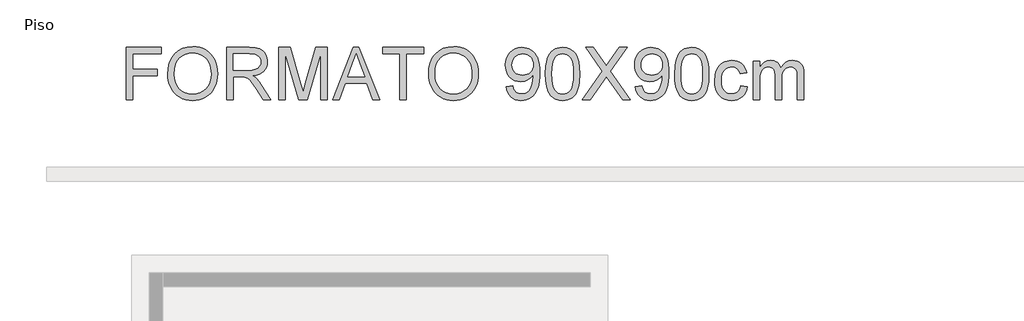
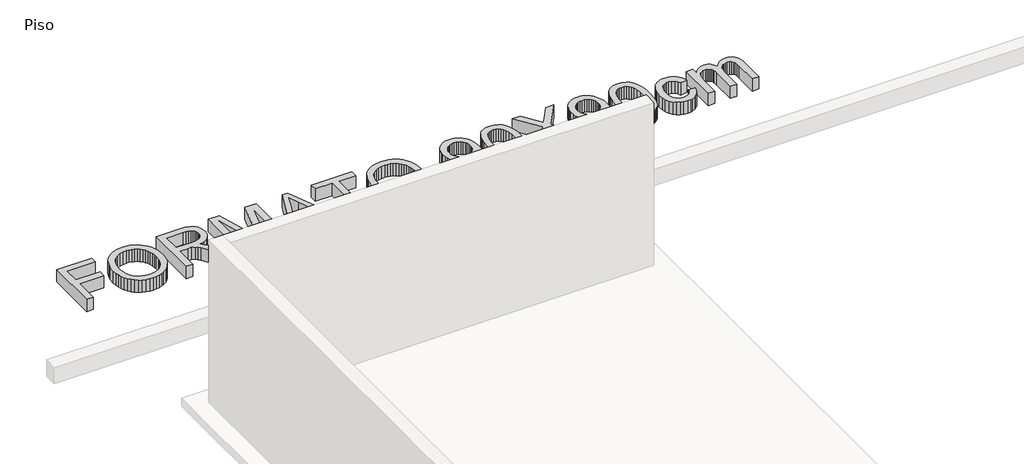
# One storey, part 2 of 2: 1 proxy.
"""IFC4 building model written with IfcOpenShell, lengths in millimetres."""

import ifcopenshell
import ifcopenshell.guid

model = None  # the IFC model being written
_history = None  # IfcOwnerHistory: only IFC2X3 demands one
_inside = {}  # id of a spatial element -> (the spatial element, [elements in it])
_under = {}  # id of a project, library or spatial element -> (it, [spatial elements below it])
_declared = {}  # id of a project -> (the project, [libraries it declares])
_typed = {}  # id of a type object -> (the type object, [elements of that type])
_made_of = {}  # id of a material, layer set ... -> (it, [elements and type objects made of it])


def new_model(schema):
    """Start an empty IFC model of exactly this schema.

    Asked for "IFC4X3", IfcOpenShell would pick the latest addendum, in which some entities
    have other attributes; the version numbers below select the first issue.
    IFC2X3 requires an IfcOwnerHistory on every rooted entity: one is made here for all.
    """
    global model, _history
    if schema == "IFC4X3":
        model = ifcopenshell.file(schema_version=(4, 3, 0, 0))
    else:
        model = ifcopenshell.file(schema=schema)
    _inside.clear()
    _under.clear()
    _declared.clear()
    _typed.clear()
    _made_of.clear()
    _history = None
    if model.schema == "IFC2X3":
        org = make("IfcOrganization", Name="unknown")
        user = make(
            "IfcPersonAndOrganization",
            ThePerson=make("IfcPerson", FamilyName="unknown"),
            TheOrganization=org,
        )
        app = make(
            "IfcApplication",
            ApplicationDeveloper=org,
            Version="unknown",
            ApplicationFullName="unknown",
            ApplicationIdentifier="unknown",
        )
        _history = make(
            "IfcOwnerHistory",
            OwningUser=user,
            OwningApplication=app,
            ChangeAction="ADDED",
            CreationDate=0,
        )
    return model


def make(cls, **values):
    """One entity of the class cls with the attributes given. An attribute that is None is left unset."""
    return model.create_entity(
        cls, **{name: value for name, value in values.items() if value is not None}
    )


def rooted(cls, **values):
    """An entity with a GlobalId (a new one), such as an element, a storey or a relation."""
    return make(cls, GlobalId=ifcopenshell.guid.new(), OwnerHistory=_history, **values)


def si_unit(unit_type, name, prefix=None):
    """IfcSIUnit, for example si_unit("LENGTHUNIT", "METRE", prefix="MILLI")."""
    return make("IfcSIUnit", UnitType=unit_type, Prefix=prefix, Name=name)


def assignment(units):
    """IfcUnitAssignment: the units of a project."""
    return None if units is None else make("IfcUnitAssignment", Units=units)


def point(xyz):
    """IfcCartesianPoint."""
    return None if xyz is None else make("IfcCartesianPoint", Coordinates=xyz)


def direction(xyz):
    """IfcDirection."""
    return None if xyz is None else make("IfcDirection", DirectionRatios=xyz)


def frame(location, z_axis=None, x_axis=None):
    """IfcAxis2Placement3D, a coordinate frame: its origin and axes. An axis left out is left unset."""
    return make(
        "IfcAxis2Placement3D",
        Location=point(location),
        Axis=direction(z_axis),
        RefDirection=direction(x_axis),
    )


def origin():
    """The frame at (0, 0, 0) with its axes left unset."""
    return frame((0.0, 0.0, 0.0))


def origin_with_axes():
    """The frame at (0, 0, 0) with the z axis (0, 0, 1) and the x axis (1, 0, 0) written out."""
    return frame((0.0, 0.0, 0.0), z_axis=(0.0, 0.0, 1.0), x_axis=(1.0, 0.0, 0.0))


def place(relative_to, where):
    """IfcLocalPlacement: puts the frame where relative to a parent placement (None: the world)."""
    return make(
        "IfcLocalPlacement", PlacementRelTo=relative_to, RelativePlacement=where
    )


def context(
    kind, dimensions, precision=None, world=None, true_north=None, identifier=None
):
    """IfcGeometricRepresentationContext, for example the 3D "Model" context."""
    return make(
        "IfcGeometricRepresentationContext",
        ContextIdentifier=identifier,
        ContextType=kind,
        CoordinateSpaceDimension=dimensions,
        Precision=precision,
        WorldCoordinateSystem=world,
        TrueNorth=true_north,
    )


def project(units=None, contexts=None):
    """IfcProject with its units and contexts."""
    return rooted(
        "IfcProject",
        Name="project",
        RepresentationContexts=contexts,
        UnitsInContext=assignment(units),
    )


def spatial(cls, under=None, at=None, **own):
    """A site, building, storey or space (cls), placed at a placement, below another one or the project."""
    s = rooted(cls, ObjectPlacement=at, **own)
    if under is not None:
        _under.setdefault(under.id(), (under, []))[1].append(s)
    return s


def polyline(points):
    """IfcPolyline through the points."""
    return make("IfcPolyline", Points=[point(p) for p in points])


def outline(outer, holes=None, kind="AREA"):
    """IfcArbitraryClosedProfileDef: a profile drawn as a closed curve; with holes, ...WithVoids."""
    if holes is None:
        return make("IfcArbitraryClosedProfileDef", ProfileType=kind, OuterCurve=outer)
    return make(
        "IfcArbitraryProfileDefWithVoids",
        ProfileType=kind,
        OuterCurve=outer,
        InnerCurves=holes,
    )


def extrude(swept, where, along, depth):
    """IfcExtrudedAreaSolid: the profile swept, set in the frame where, extruded along a direction by depth."""
    return make(
        "IfcExtrudedAreaSolid",
        SweptArea=swept,
        Position=where,
        ExtrudedDirection=direction(along),
        Depth=depth,
    )


def shape(context_of_items, identifier, shape_type, items):
    """IfcShapeRepresentation: the items that make up one representation, for example the "Body"."""
    return make(
        "IfcShapeRepresentation",
        ContextOfItems=context_of_items,
        RepresentationIdentifier=identifier,
        RepresentationType=shape_type,
        Items=items,
    )


def made_of(thing, what):
    """Note that an element or type object is made of a material, layer set ...; save() writes the relation."""
    if what is not None:
        _made_of.setdefault(what.id(), (what, []))[1].append(thing)
    return thing


def element(
    cls,
    number,
    at=None,
    inside=None,
    cuts=None,
    type_object=None,
    material=None,
    context=None,
    identifier="Body",
    shape_type=None,
    held_by="IfcProductDefinitionShape",
    body=None,
    shapes=None,
    **own,
):
    """One element of the class cls, such as IfcWall. Its Tag is "e" and its number.

    at: its placement. inside: the storey or other place that contains it. cuts: it is an
    opening in that element (IfcRelVoidsElement). A single representation is given by context,
    identifier, shape_type and body (its items); several are given by shapes. held_by: the class
    of the entity that holds the representations. save() writes the other relations.
    """
    e = rooted(cls, Tag="e%d" % number, ObjectPlacement=at, **own)
    if body is not None:
        shapes = [shape(context, identifier, shape_type, body)]
    if shapes is not None:
        e.Representation = make(held_by, Representations=shapes)
    if inside is not None:
        _inside.setdefault(inside.id(), (inside, []))[1].append(e)
    if cuts is not None:
        rooted(
            "IfcRelVoidsElement", RelatingBuildingElement=cuts, RelatedOpeningElement=e
        )
    if type_object is not None:
        _typed.setdefault(type_object.id(), (type_object, []))[1].append(e)
    return made_of(e, material)


def aggregate(whole, parts):
    """IfcRelAggregates: a whole, such as a stair, and the parts it consists of."""
    return rooted("IfcRelAggregates", RelatingObject=whole, RelatedObjects=parts)


def save(model, path):
    """Write the relations noted so far, then the file.

    IfcRelAggregates (storeys below a building ...), IfcRelContainedInSpatialStructure (elements
    in a storey), IfcRelDefinesByType, IfcRelAssociatesMaterial and IfcRelDeclares: one each for
    every whole, place, type object, material and project.
    """
    for whole, parts in _under.values():
        aggregate(whole, parts)
    for where, things in _inside.values():
        rooted(
            "IfcRelContainedInSpatialStructure",
            RelatedElements=things,
            RelatingStructure=where,
        )
    for kind, things in _typed.values():
        rooted("IfcRelDefinesByType", RelatedObjects=things, RelatingType=kind)
    for what, things in _made_of.values():
        rooted("IfcRelAssociatesMaterial", RelatedObjects=things, RelatingMaterial=what)
    for by, libraries in _declared.values():
        rooted("IfcRelDeclares", RelatingContext=by, RelatedDefinitions=libraries)
    model.write(path)


model = new_model("IFC4")

# Units and contexts
model_context = context("Model", 3, world=origin())
ifc_project = project(units=[si_unit("LENGTHUNIT", "METRE", prefix="MILLI")], contexts=[model_context])

# Site, building, storey
site = spatial("IfcSite", under=ifc_project)
building = spatial("IfcBuilding", under=site)
storey = spatial("IfcBuildingStorey", under=building, Name="Piso", Elevation=0.0)

# Proxy
placement = place(None, origin())
element("IfcBuildingElementProxy", 1, Name="600mm Arial", ObjectType="600mm Arial", at=placement, inside=storey, context=model_context, shape_type="SweptSolid", body=[
    extrude(outline(polyline([(92602.0859381, 2702.6380465), (92602.0859381, 3305.3759074), (93007.0504384, 3305.3759074), (93007.0504384, 3230.0336748), (92677.4281707, 3230.0336748), (92677.4281707, 3051.0958724), (92959.961543, 3051.0958724), (92959.961543, 2975.7536397), (92677.4281707, 2975.7536397), (92677.4281707, 2702.6380465), (92602.0859381, 2702.6380465)])), origin_with_axes(), (0.0, 0.0, 1.0), 150.0),
    extrude(outline(polyline([(93082.392671, 2996.0607259), (93087.4142602, 3066.7584483), (93102.4790279, 3129.3443727), (93127.5869741, 3183.8184992), (93143.9071391, 3208.0136381), (93162.7380987, 3230.1808276), (93205.8262774, 3267.1989534), (93254.7453857, 3293.6404718), (93309.4954237, 3309.5053828), (93370.0763912, 3314.7936865), (93410.6261841, 3312.310483), (93449.134232, 3304.8608726), (93485.6005348, 3292.4448553), (93520.0250925, 3275.062431), (93551.4422148, 3253.2378317), (93578.8862117, 3227.495289), (93602.357083, 3197.8348032), (93621.8548287, 3164.2563741), (93637.1771138, 3127.5233569), (93648.1216032, 3088.3991067), (93654.6882968, 3046.8836235), (93656.8771947, 3002.9769074), (93654.5733337, 2958.4907771), (93647.6617507, 2916.4142739), (93636.1424457, 2876.7473978), (93620.0154187, 2839.4901487), (93599.6623474, 2805.6266111), (93575.4649091, 2776.1408692), (93547.423104, 2751.032923), (93515.5369321, 2730.3027726), (93481.0617906, 2714.0791766), (93445.2530769, 2702.4908937), (93408.110791, 2695.537924), (93369.6349328, 2693.2202674), (93328.3769671, 2695.7816458), (93289.3630815, 2703.465781), (93252.5932761, 2716.272673), (93218.0675508, 2734.2023217), (93186.6872166, 2756.56035), (93159.3535844, 2782.6523805), (93136.0666541, 2812.4784132), (93116.8264257, 2846.0384482), (93101.761658, 2881.9851177), (93091.0011097, 2918.9710538), (93084.5447807, 2956.9962565), (93082.392671, 2996.0607259)]), holes=[polyline([(93157.7349036, 2995.3249619), (93161.5010955, 2945.375784), (93172.7996713, 2901.0368065), (93191.6306309, 2862.3080295), (93217.9939744, 2829.1894529), (93250.0410947, 2802.665161), (93285.9233848, 2783.7192383), (93325.6408447, 2772.3516846), (93369.1934744, 2768.5625001), (93413.4910652, 2772.3884728), (93453.6775746, 2783.8663911), (93489.7530028, 2802.9962548), (93521.7173496, 2829.7780641), (93547.8875551, 2863.5956165), (93566.5805589, 2903.8327097), (93577.7963613, 2950.4893437), (93581.5349621, 3003.5655186), (93579.9346754, 3038.0452586), (93575.1338153, 3070.2625243), (93567.1323819, 3100.2173158), (93555.9303752, 3127.9096329), (93541.6519553, 3152.9761924), (93524.4212823, 3175.0537106), (93504.2383563, 3194.1421877), (93481.1031774, 3210.2416235), (93455.7331153, 3223.0209243), (93428.84554, 3232.1489963), (93400.4404514, 3237.6258395), (93370.5178496, 3239.4514539), (93328.4781346, 3235.9335823), (93289.4734461, 3225.3799676), (93253.503784, 3207.7906097), (93220.5691484, 3183.1655086), (93193.0791663, 3150.318245), (93173.4434648, 3108.0623993), (93161.6620439, 3056.3979716), (93157.7349036, 2995.3249619)])]), origin_with_axes(), (0.0, 0.0, 1.0), 150.0),
    extrude(outline(polyline([(93760.4727645, 2702.6380465), (93760.4727645, 3305.3759074), (94020.1974531, 3305.3759074), (94090.0030617, 3301.3108114), (94140.7891711, 3289.1155232), (94160.3880844, 3279.4218327), (94177.9084644, 3266.6011451), (94193.3503112, 3250.6534606), (94206.7136247, 3231.5787792), (94217.4971656, 3210.4025718), (94225.1996949, 3188.1503097), (94229.8212125, 3164.8219926), (94231.3617183, 3140.4176208), (94228.809537, 3109.4603509), (94221.152993, 3081.0414668), (94208.3920863, 3055.1609684), (94190.5268169, 3031.8188558), (94167.3272585, 3011.76009), (94138.563485, 2995.7296321), (94104.2354964, 2983.727482), (94064.3432925, 2975.7536397), (94089.1753272, 2959.5300438), (94107.1647568, 2943.527177), (94138.0300562, 2906.9229184), (94168.233168, 2865.9776524), (94268.738529, 2702.6380465), (94181.1826142, 2702.6380465), (94102.7501728, 2827.5707721), (94046.0963456, 2910.2706446), (94025.0351013, 2934.3853094), (94006.2915137, 2949.3397125), (93970.4598074, 2963.6871103), (93926.7554263, 2966.3358607), (93835.8149971, 2966.3358607), (93835.8149971, 2702.6380465), (93760.4727645, 2702.6380465)]), holes=[polyline([(93835.8149971, 3041.6780933), (94004.4521037, 3041.6780933), (94052.8837684, 3044.3452377), (94090.4629142, 3052.3466711), (94118.7530396, 3066.2158224), (94139.3176431, 3086.4861203), (94151.8440251, 3111.0054553), (94156.0194857, 3137.6217176), (94154.0283244, 3156.8895371), (94148.0548405, 3174.3731289), (94138.099034, 3190.0724931), (94124.1609049, 3203.9876296), (94105.9185565, 3215.3827744), (94083.050092, 3223.5221635), (94055.5555114, 3228.405797), (94023.4348147, 3230.0336748), (93835.8149971, 3230.0336748), (93835.8149971, 3041.6780933)])]), origin_with_axes(), (0.0, 0.0, 1.0), 150.0),
    extrude(outline(polyline([(94363.2106254, 2702.6380465), (94363.2106254, 3305.3759074), (94492.8522405, 3305.3759074), (94616.1662853, 2880.5457794), (94641.0351082, 2791.8126422), (94667.9640702, 2887.9034193), (94789.2179758, 3305.3759074), (94918.8595909, 3305.3759074), (94918.8595909, 2702.6380465), (94843.5173583, 2702.6380465), (94843.5173583, 3230.0336748), (94692.0971291, 2702.6380465), (94589.9730872, 2702.6380465), (94438.552858, 3230.0336748), (94438.552858, 2702.6380465), (94363.2106254, 2702.6380465)])), origin_with_axes(), (0.0, 0.0, 1.0), 150.0),
    extrude(outline(polyline([(94980.5166133, 2702.6380465), (95221.1114382, 3305.3759074), (95285.2700581, 3305.3759074), (95525.864883, 2702.6380465), (95446.2552192, 2702.6380465), (95377.2405569, 2890.9936281), (95128.9937866, 2890.9936281), (95060.1262771, 2702.6380465), (94980.5166133, 2702.6380465)]), holes=[polyline([(95156.6585126, 2966.3358607), (95349.7229837, 2966.3358607), (95295.4236012, 3114.5187283), (95253.1907481, 3230.0336748), (95215.6667846, 3127.4681746), (95156.6585126, 2966.3358607)])]), origin_with_axes(), (0.0, 0.0, 1.0), 150.0),
    extrude(outline(polyline([(95757.0419287, 2702.6380465), (95757.0419287, 3230.0336748), (95559.2685681, 3230.0336748), (95559.2685681, 3305.3759074), (96030.1575219, 3305.3759074), (96030.1575219, 3230.0336748), (95832.3841613, 3230.0336748), (95832.3841613, 2702.6380465), (95757.0419287, 2702.6380465)])), origin_with_axes(), (0.0, 0.0, 1.0), 150.0),
    extrude(outline(polyline([(96086.6641964, 2996.0607259), (96091.6857856, 3066.7584483), (96106.7505533, 3129.3443727), (96131.8584995, 3183.8184992), (96148.1786645, 3208.0136381), (96167.0096242, 3230.1808276), (96210.0978028, 3267.1989534), (96259.0169111, 3293.6404718), (96313.7669491, 3309.5053828), (96374.3479166, 3314.7936865), (96414.8977096, 3312.310483), (96453.4057574, 3304.8608726), (96489.8720602, 3292.4448553), (96524.2966179, 3275.062431), (96555.7137403, 3253.2378317), (96583.1577371, 3227.495289), (96606.6286084, 3197.8348032), (96626.1263541, 3164.2563741), (96641.4486392, 3127.5233569), (96652.3931286, 3088.3991067), (96658.9598222, 3046.8836235), (96661.1487201, 3002.9769074), (96658.8448591, 2958.4907771), (96651.9332761, 2916.4142739), (96640.4139711, 2876.7473978), (96624.2869442, 2839.4901487), (96603.9338728, 2805.6266111), (96579.7364345, 2776.1408692), (96551.6946295, 2751.032923), (96519.8084575, 2730.3027726), (96485.3333161, 2714.0791766), (96449.5246024, 2702.4908937), (96412.3823164, 2695.537924), (96373.9064582, 2693.2202674), (96332.6484925, 2695.7816458), (96293.6346069, 2703.465781), (96256.8648015, 2716.272673), (96222.3390762, 2734.2023217), (96190.958742, 2756.56035), (96163.6251098, 2782.6523805), (96140.3381795, 2812.4784132), (96121.0979512, 2846.0384482), (96106.0331835, 2881.9851177), (96095.2726351, 2918.9710538), (96088.8163061, 2956.9962565), (96086.6641964, 2996.0607259)]), holes=[polyline([(96162.006429, 2995.3249619), (96165.7726209, 2945.375784), (96177.0711967, 2901.0368065), (96195.9021564, 2862.3080295), (96222.2654998, 2829.1894529), (96254.3126201, 2802.665161), (96290.1949102, 2783.7192383), (96329.9123701, 2772.3516846), (96373.4649998, 2768.5625001), (96417.7625906, 2772.3884728), (96457.9491, 2783.8663911), (96494.0245282, 2802.9962548), (96525.988875, 2829.7780641), (96552.1590805, 2863.5956165), (96570.8520844, 2903.8327097), (96582.0678867, 2950.4893437), (96585.8064875, 3003.5655186), (96584.2062008, 3038.0452586), (96579.4053407, 3070.2625243), (96571.4039074, 3100.2173158), (96560.2019006, 3127.9096329), (96545.9234807, 3152.9761924), (96528.6928077, 3175.0537106), (96508.5098818, 3194.1421877), (96485.3747028, 3210.2416235), (96460.0046407, 3223.0209243), (96433.1170654, 3232.1489963), (96404.7119768, 3237.6258395), (96374.789375, 3239.4514539), (96332.74966, 3235.9335823), (96293.7449715, 3225.3799676), (96257.7753094, 3207.7906097), (96224.8406738, 3183.1655086), (96197.3506917, 3150.318245), (96177.7149902, 3108.0623993), (96165.9335693, 3056.3979716), (96162.006429, 2995.3249619)])]), origin_with_axes(), (0.0, 0.0, 1.0), 150.0),
    extrude(outline(polyline([(96981.3532087, 2853.3225117), (97056.6954413, 2862.7402908), (97069.5713111, 2819.9740089), (97079.0442725, 2803.7090262), (97090.5405848, 2790.856149), (97103.9314895, 2781.1026776), (97119.0882277, 2774.1359123), (97154.6992048, 2768.5625001), (97186.6497561, 2772.1493495), (97215.6940396, 2782.9098979), (97239.8270985, 2799.6669228), (97257.0439759, 2821.2432018), (97270.0853926, 2849.6069036), (97281.6920695, 2886.7261969), (97289.8590498, 2929.326932), (97292.5813766, 2974.134959), (97292.1399182, 2988.8502388), (97266.0386906, 2956.991658), (97231.8808474, 2931.7549531), (97192.1311978, 2915.3106279), (97149.2545513, 2909.8291862), (97113.4642317, 2913.1769124), (97080.5525887, 2923.2200908), (97050.5196223, 2939.9587216), (97023.3653325, 2963.3928047), (97000.86475, 2992.2991325), (96984.7929053, 3025.4544973), (96975.1497985, 3062.8588992), (96971.9354296, 3104.5123381), (96975.3061484, 3147.5545315), (96985.4183047, 3186.182141), (97002.2718986, 3220.3951665), (97025.8669301, 3250.1936081), (97054.5387331, 3274.3358641), (97086.6226416, 3291.5803326), (97122.1186556, 3301.9270137), (97161.0267751, 3305.3759074), (97189.7537604, 3303.4077387), (97217.2207499, 3297.5032327), (97243.4277435, 3287.6623894), (97268.3747413, 3273.8852086), (97291.2294103, 3256.4659962), (97311.1594174, 3235.6990575), (97328.1647626, 3211.5843928), (97342.2454459, 3184.1220018), (97353.2865043, 3151.7299921), (97361.1729746, 3112.8264711), (97365.9048568, 3067.4114388), (97367.4821508, 3015.4848952), (97365.9094553, 2960.950988), (97361.1913687, 2912.2756015), (97353.3278911, 2869.4587358), (97342.3190223, 2832.5003908), (97328.2061493, 2800.4992558), (97311.0306587, 2772.5540197), (97290.7925504, 2748.6646826), (97267.4918245, 2728.8312446), (97241.5975306, 2713.2514421), (97213.5787181, 2702.1230117), (97183.4353872, 2695.4459535), (97151.1675377, 2693.2202674), (97117.3315911, 2695.8460252), (97086.7514003, 2703.7232984), (97059.4269651, 2716.8520871), (97035.3582856, 2735.2323913), (97015.152367, 2758.3675703), (96999.4162146, 2785.7609833), (96988.1498285, 2817.4126305), (96981.3532087, 2853.3225117)]), holes=[polyline([(97292.1399182, 3106.2781716), (97290.1073702, 3133.2807101), (97284.0097261, 3157.3401926), (97273.846986, 3178.4566191), (97259.6191498, 3196.6299896), (97242.0251934, 3211.2441019), (97221.7640925, 3221.6827535), (97198.8358472, 3227.9459445), (97173.2404574, 3230.0336748), (97146.8265301, 3227.7849961), (97122.9142004, 3221.03896), (97101.5034683, 3209.7955666), (97082.5943338, 3194.0548157), (97067.14329, 3174.7364124), (97056.1068301, 3152.7600617), (97049.4849542, 3128.1257636), (97047.2776622, 3100.8335181), (97049.3653925, 3076.3555699), (97055.6285835, 3054.2780516), (97066.0672351, 3034.6009634), (97080.6813474, 3017.3243052), (97098.863915, 3003.2574174), (97120.0079327, 2993.2096404), (97144.1134004, 2987.1809742), (97171.1803182, 2985.1714188), (97196.4216216, 2987.1809742), (97219.3176773, 2993.2096404), (97239.8684852, 3003.2574174), (97258.0740454, 3017.3243052), (97272.9778648, 3034.9412542), (97283.62345, 3055.639215), (97290.0108012, 3079.4181875), (97292.1399182, 3106.2781716)])]), origin_with_axes(), (0.0, 0.0, 1.0), 150.0),
    extrude(outline(polyline([(97433.4066044, 2999.1509346), (97438.9432284, 3095.6279879), (97445.8640084, 3136.5410643), (97455.5531005, 3172.5705072), (97467.9691178, 3204.0106222), (97483.0706737, 3231.1557149), (97500.8577682, 3254.0057853), (97521.3304012, 3272.5608335), (97544.5575507, 3286.9174283), (97570.6081945, 3297.1721389), (97599.4823325, 3303.3249653), (97631.179965, 3305.3759074), (97677.6066727, 3300.5198651), (97719.1773382, 3285.9517381), (97753.9421867, 3262.2417435), (97779.9514438, 3229.9600984), (97799.5963424, 3189.3827143), (97815.2681153, 3140.7855028), (97825.532023, 3079.0732981), (97828.9533256, 2999.1509346), (97823.4718838, 2903.2257044), (97816.6200817, 2862.4505838), (97807.0275587, 2826.4671261), (97794.7081103, 2795.0132155), (97779.6755323, 2767.8267361), (97761.9298246, 2744.9076878), (97741.4709871, 2726.2560706), (97718.2162465, 2711.8029067), (97692.0828293, 2701.4792182), (97663.0707354, 2695.2850051), (97631.179965, 2693.2202674), (97589.6828759, 2696.8071169), (97552.8946764, 2707.5676653), (97520.8153664, 2725.5019125), (97493.444946, 2750.6098587), (97467.1781715, 2795.9972999), (97448.4161898, 2852.5499596), (97437.1590007, 2920.2678378), (97433.4066044, 2999.1509346)]), holes=[polyline([(97508.748837, 2999.2980874), (97510.9561289, 2933.8012967), (97517.5780048, 2880.7849027), (97528.6144647, 2840.2489053), (97544.0655085, 2812.1933047), (97562.7539139, 2793.1048277), (97583.5024584, 2779.4702012), (97606.3111421, 2771.2894254), (97631.179965, 2768.5625001), (97656.0487878, 2771.2986224), (97678.8574715, 2779.5069894), (97699.6060161, 2793.1876011), (97718.2944214, 2812.3404575), (97733.7454652, 2840.4420434), (97744.7819251, 2880.9688437), (97751.403801, 2933.9208584), (97753.611093, 2999.2980874), (97751.4773774, 3063.0612342), (97745.0762307, 3115.1441277), (97734.4076528, 3155.5467678), (97719.4716438, 3184.2691546), (97701.0959381, 3204.2911322), (97680.1082703, 3218.5925448), (97656.5086403, 3227.1733923), (97630.2970482, 3230.0336748), (97605.556984, 3227.5136831), (97583.1345764, 3219.9537081), (97563.0298254, 3207.3537498), (97545.2427309, 3189.7138081), (97529.2766523, 3158.4438385), (97517.8723104, 3116.2845619), (97511.0297053, 3063.2359782), (97508.748837, 2999.2980874)])]), origin_with_axes(), (0.0, 0.0, 1.0), 150.0),
    extrude(outline(polyline([(97857.2066628, 2702.6380465), (98089.5609309, 3031.0830918), (97894.8777791, 3305.3759074), (97985.2295971, 3305.3759074), (98094.8584317, 3151.0126222), (98121.0148415, 3111.9067662), (98131.793784, 3090.8271278), (98175.0567066, 3152.0426918), (98283.5083188, 3305.3759074), (98375.184512, 3305.3759074), (98180.5013602, 3030.200175), (98412.8556283, 2702.6380465), (98322.5038103, 2702.6380465), (98167.6990667, 2921.0127989), (98135.4726039, 2966.3358607), (98100.0087796, 2916.5982149), (97948.882856, 2702.6380465), (97857.2066628, 2702.6380465)])), origin_with_axes(), (0.0, 0.0, 1.0), 150.0),
    extrude(outline(polyline([(98469.3623028, 2853.3225117), (98544.7045354, 2862.7402908), (98557.5804052, 2819.9740089), (98567.0533666, 2803.7090262), (98578.5496789, 2790.856149), (98591.9405836, 2781.1026776), (98607.0973218, 2774.1359123), (98642.7082989, 2768.5625001), (98674.6588502, 2772.1493495), (98703.7031337, 2782.9098979), (98727.8361926, 2799.6669228), (98745.05307, 2821.2432018), (98758.0944867, 2849.6069036), (98769.7011636, 2886.7261969), (98777.8681439, 2929.326932), (98780.5904707, 2974.134959), (98780.1490123, 2988.8502388), (98754.0477847, 2956.991658), (98719.8899415, 2931.7549531), (98680.1402919, 2915.3106279), (98637.2636454, 2909.8291862), (98601.4733258, 2913.1769124), (98568.5616828, 2923.2200908), (98538.5287164, 2939.9587216), (98511.3744266, 2963.3928047), (98488.8738441, 2992.2991325), (98472.8019994, 3025.4544973), (98463.1588926, 3062.8588992), (98459.9445237, 3104.5123381), (98463.3152425, 3147.5545315), (98473.4273988, 3186.182141), (98490.2809927, 3220.3951665), (98513.8760242, 3250.1936081), (98542.5478272, 3274.3358641), (98574.6317357, 3291.5803326), (98610.1277497, 3301.9270137), (98649.0358692, 3305.3759074), (98677.7628545, 3303.4077387), (98705.229844, 3297.5032327), (98731.4368376, 3287.6623894), (98756.3838354, 3273.8852086), (98779.2385044, 3256.4659962), (98799.1685114, 3235.6990575), (98816.1738567, 3211.5843928), (98830.25454, 3184.1220018), (98841.2955984, 3151.7299921), (98849.1820687, 3112.8264711), (98853.9139509, 3067.4114388), (98855.4912449, 3015.4848952), (98853.9185494, 2960.950988), (98849.2004628, 2912.2756015), (98841.3369851, 2869.4587358), (98830.3281164, 2832.5003908), (98816.2152434, 2800.4992558), (98799.0397527, 2772.5540197), (98778.8016445, 2748.6646826), (98755.5009186, 2728.8312446), (98729.6066247, 2713.2514421), (98701.5878122, 2702.1230117), (98671.4444812, 2695.4459535), (98639.1766317, 2693.2202674), (98605.3406852, 2695.8460252), (98574.7604944, 2703.7232984), (98547.4360592, 2716.8520871), (98523.3673797, 2735.2323913), (98503.1614611, 2758.3675703), (98487.4253087, 2785.7609833), (98476.1589226, 2817.4126305), (98469.3623028, 2853.3225117)]), holes=[polyline([(98780.1490123, 3106.2781716), (98778.1164643, 3133.2807101), (98772.0188202, 3157.3401926), (98761.8560801, 3178.4566191), (98747.6282439, 3196.6299896), (98730.0342875, 3211.2441019), (98709.7731866, 3221.6827535), (98686.8449413, 3227.9459445), (98661.2495515, 3230.0336748), (98634.8356242, 3227.7849961), (98610.9232945, 3221.03896), (98589.5125624, 3209.7955666), (98570.6034278, 3194.0548157), (98555.152384, 3174.7364124), (98544.1159242, 3152.7600617), (98537.4940483, 3128.1257636), (98535.2867563, 3100.8335181), (98537.3744866, 3076.3555699), (98543.6376776, 3054.2780516), (98554.0763292, 3034.6009634), (98568.6904415, 3017.3243052), (98586.8730091, 3003.2574174), (98608.0170268, 2993.2096404), (98632.1224945, 2987.1809742), (98659.1894123, 2985.1714188), (98684.4307157, 2987.1809742), (98707.3267713, 2993.2096404), (98727.8775793, 3003.2574174), (98746.0831395, 3017.3243052), (98760.9869589, 3034.9412542), (98771.6325441, 3055.639215), (98778.0198952, 3079.4181875), (98780.1490123, 3106.2781716)])]), origin_with_axes(), (0.0, 0.0, 1.0), 150.0),
    extrude(outline(polyline([(98921.4156984, 2999.1509346), (98926.9523225, 3095.6279879), (98933.8731025, 3136.5410643), (98943.5621946, 3172.5705072), (98955.9782119, 3204.0106222), (98971.0797678, 3231.1557149), (98988.8668623, 3254.0057853), (99009.3394953, 3272.5608335), (99032.5666448, 3286.9174283), (99058.6172885, 3297.1721389), (99087.4914266, 3303.3249653), (99119.189059, 3305.3759074), (99165.6157668, 3300.5198651), (99207.1864323, 3285.9517381), (99241.9512808, 3262.2417435), (99267.9605379, 3229.9600984), (99287.6054364, 3189.3827143), (99303.2772094, 3140.7855028), (99313.5411171, 3079.0732981), (99316.9624197, 2999.1509346), (99311.4809779, 2903.2257044), (99304.6291758, 2862.4505838), (99295.0366527, 2826.4671261), (99282.7172044, 2795.0132155), (99267.6846264, 2767.8267361), (99249.9389187, 2744.9076878), (99229.4800812, 2726.2560706), (99206.2253406, 2711.8029067), (99180.0919234, 2701.4792182), (99151.0798295, 2695.2850051), (99119.189059, 2693.2202674), (99077.69197, 2696.8071169), (99040.9037705, 2707.5676653), (99008.8244605, 2725.5019125), (98981.4540401, 2750.6098587), (98955.1872656, 2795.9972999), (98936.4252838, 2852.5499596), (98925.1680948, 2920.2678378), (98921.4156984, 2999.1509346)]), holes=[polyline([(98996.7579311, 2999.2980874), (98998.965223, 2933.8012967), (99005.5870989, 2880.7849027), (99016.6235588, 2840.2489053), (99032.0746026, 2812.1933047), (99050.7630079, 2793.1048277), (99071.5115525, 2779.4702012), (99094.3202362, 2771.2894254), (99119.189059, 2768.5625001), (99144.0578819, 2771.2986224), (99166.8665656, 2779.5069894), (99187.6151102, 2793.1876011), (99206.3035155, 2812.3404575), (99221.7545593, 2840.4420434), (99232.7910192, 2880.9688437), (99239.4128951, 2933.9208584), (99241.620187, 2999.2980874), (99239.4864715, 3063.0612342), (99233.0853248, 3115.1441277), (99222.4167469, 3155.5467678), (99207.4807379, 3184.2691546), (99189.1050322, 3204.2911322), (99168.1173644, 3218.5925448), (99144.5177344, 3227.1733923), (99118.3061423, 3230.0336748), (99093.5660781, 3227.5136831), (99071.1436705, 3219.9537081), (99051.0389194, 3207.3537498), (99033.251825, 3189.7138081), (99017.2857464, 3158.4438385), (99005.8814045, 3116.2845619), (98999.0387994, 3063.2359782), (98996.7579311, 2999.2980874)])]), origin_with_axes(), (0.0, 0.0, 1.0), 150.0),
    extrude(outline(polyline([(99684.2558036, 2862.7402908), (99759.5980363, 2853.3225117), (99751.4034648, 2817.7713154), (99738.5919743, 2786.3128063), (99721.1635648, 2758.9469844), (99699.1182362, 2735.6738497), (99673.3848907, 2717.1004075), (99644.8924302, 2703.833663), (99613.6408547, 2695.8736163), (99579.6301642, 2693.2202674), (99537.3743185, 2696.92208), (99499.4870716, 2708.0275178), (99465.9684233, 2726.5365806), (99436.8183737, 2752.4492687), (99413.2233422, 2785.2781382), (99396.3697483, 2824.5357456), (99386.257592, 2870.2220909), (99382.8868732, 2922.337174), (99388.6442264, 2989.3836677), (99395.8409179, 3019.5545898), (99405.9162861, 3047.4906288), (99418.9393087, 3072.6307646), (99434.9789637, 3094.4139773), (99454.0352511, 3112.8402667), (99476.1081708, 3127.9096329), (99500.1998429, 3139.6266745), (99525.3123876, 3147.9959899), (99551.4458049, 3153.0175791), (99578.6000946, 3154.6914422), (99612.0267724, 3152.3921797), (99642.2620739, 3145.4943923), (99669.3059991, 3133.99808), (99693.1585479, 3117.9032427), (99713.4150503, 3097.5777624), (99729.6708359, 3073.3895213), (99741.9259049, 3045.3385191), (99750.1802572, 3013.4247561), (99674.8380246, 3004.006977), (99661.1712084, 3036.8772332), (99639.889235, 3060.440075), (99612.1693267, 3074.6219259), (99579.1887058, 3079.3492096), (99553.5887175, 3077.022356), (99530.4995238, 3070.0417951), (99509.9211247, 3058.407527), (99491.8535202, 3042.1195517), (99477.1428389, 3020.8007901), (99466.6352094, 2994.0741631), (99460.3306317, 2961.9396708), (99458.2291058, 2924.3973132), (99460.2846465, 2886.289337), (99466.4512684, 2853.7823642), (99476.7289716, 2826.8763948), (99491.1177562, 2805.5714288), (99508.8266757, 2789.3800225), (99529.064784, 2777.8147322), (99551.832081, 2770.8755581), (99577.1285666, 2768.5625001), (99616.1424522, 2774.3382474), (99633.0144402, 2781.5579315), (99648.1297917, 2791.6654894), (99661.0654424, 2804.7712854), (99671.3983279, 2820.9856844), (99679.1284483, 2840.3086862), (99684.2558036, 2862.7402908)])), origin_with_axes(), (0.0, 0.0, 1.0), 150.0),
    extrude(outline(polyline([(99825.5224898, 2702.6380465), (99825.5224898, 3145.2736631), (99900.8647224, 3145.2736631), (99900.8647224, 3072.4330281), (99923.5262533, 3105.8918955), (99952.6625073, 3132.1034877), (99987.2802031, 3149.0444536), (100026.3860592, 3154.6914422), (100068.2878184, 3148.934089), (100086.1208981, 3141.7373974), (100101.8754446, 3131.6620293), (100126.9649966, 3104.0156974), (100143.3725336, 3067.1355273), (100170.8349246, 3105.4412401), (100202.1600765, 3132.8024635), (100237.3479893, 3149.2191975), (100276.3986631, 3154.6914422), (100306.5603882, 3152.4151724), (100333.0340962, 3145.5863628), (100355.8197873, 3134.2050136), (100374.9174614, 3118.2711247), (100390.0144188, 3097.6007551), (100400.7979597, 3072.0099638), (100407.2680843, 3041.4987508), (100409.4247925, 3006.0671161), (100409.4247925, 2702.6380465), (100334.0825599, 2702.6380465), (100334.0825599, 2973.6935006), (100332.3351204, 3011.2726464), (100327.092802, 3036.6013217), (100317.2703527, 3053.9469578), (100301.7825207, 3067.5769857), (100281.8617107, 3076.4061536), (100258.7403273, 3079.3492096), (100237.389376, 3077.4638144), (100217.9238199, 3071.8076287), (100200.3436591, 3062.3806526), (100184.6488935, 3049.182886), (100171.740834, 3031.8280529), (100162.5207915, 3009.9298771), (100156.988766, 2983.4883587), (100155.1447575, 2952.5034976), (100155.1447575, 2702.6380465), (100079.8025249, 2702.6380465), (100079.8025249, 2982.0812101), (100075.4431232, 3024.6819451), (100069.9938712, 3041.4021818), (100062.3649183, 3055.0689979), (100052.2527619, 3065.6915905), (100039.3538995, 3073.2791567), (100023.6683309, 3077.8316964), (100005.1960562, 3079.3492096), (99976.1701668, 3075.3025076), (99949.4251458, 3063.1624018), (99927.3522261, 3043.2231977), (99912.3426407, 3015.7792008), (99903.734202, 2977.7034143), (99900.8647224, 2925.8688412), (99900.8647224, 2702.6380465), (99825.5224898, 2702.6380465)])), origin_with_axes(), (0.0, 0.0, 1.0), 150.0),
])

save(model, "model.ifc")
